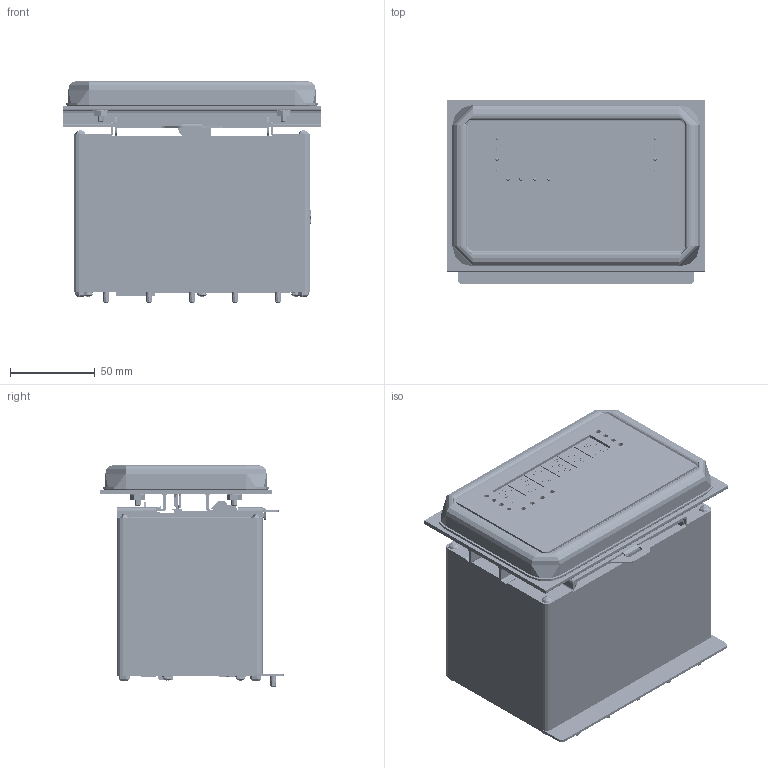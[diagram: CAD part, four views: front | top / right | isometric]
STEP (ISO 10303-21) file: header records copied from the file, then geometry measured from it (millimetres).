
FILE_DESCRIPTION (( 'STEP AP203' ), '1' );
FILE_NAME ('880PM-5.5-LAYOUT.STEP', '2018-08-28T18:08:05', ( '' ), ( '' ), 'SwSTEP 2.0', 'SolidWorks 2017', '' );
FILE_SCHEMA (( 'CONFIG_CONTROL_DESIGN' ));
Length unit declared in the file: inch
Products named in the file (730): ANY_RES0603; ANY_RES0402; 179641; INDC2012X110L50N; IPC_FIDUCIAL; C&K_KT11B2JM34LFS; PEM_KFSE-440-23; 130471; ANY_CAP0402; Micrel_MIC2940A-50WU; MOLEX_0522071485; SOP65P640X120-14L30N; 151674; 157171_A; FTDI_FT200XD-R; Maxim_DS1682; RESC2012X64L37N; RAF_7228-B-B-16; ANY_CAP0603; Diodes_SMBJ15CA-13-F_DIOM5436X244N; 157171_C; Samtec_SNT-100-BK-G; DIOM5436X244N; 53308; 43332; Components-CORP_TP-107; Kemet_T491A225K016AT; 14621; TESTPOINT_VIA; 177410_Guide4; Vishay_CRCW0805330RFKEA; 153856; Samtec_TSW-102-07-T-S; RESC4532X70L50N; CAPC3216X150L50N; SOTFL95P300X100-3N; CAPPM7343X310N; 22091; m175603r01_idf_pcb; JAE_DX4R205JJA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
Assembly tree (516 placements, depth 4):
  ANY_RES0603
  ANY_RES0402
  INDC2012X110L50N
  IPC_FIDUCIAL
  PEM_KFSE-440-23
Bounding box: 152.4 x 108.75 x 131.17 mm (x, y, z)
Volume: 392832 mm3; surface area: 429501.8 mm2
Topology: 557 solids, 578 shells, 15752 faces, 41372 edges, 26971 vertices
Faces by surface type: plane 10536, cylinder 3205, bspline 1309, cone 544, torus 124, sphere 34
Entity records: 428474 total; most frequent: CARTESIAN_POINT 118971, ORIENTED_EDGE 51094, DIRECTION 47093, EDGE_CURVE 25886, VECTOR 19197, LINE 19197, VERTEX_POINT 16977, AXIS2_PLACEMENT_3D 13948
